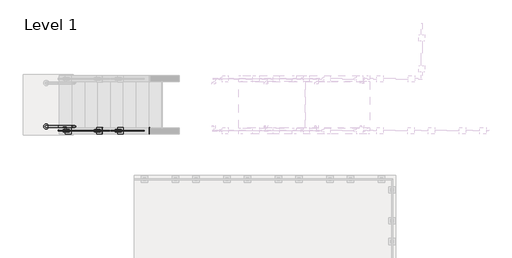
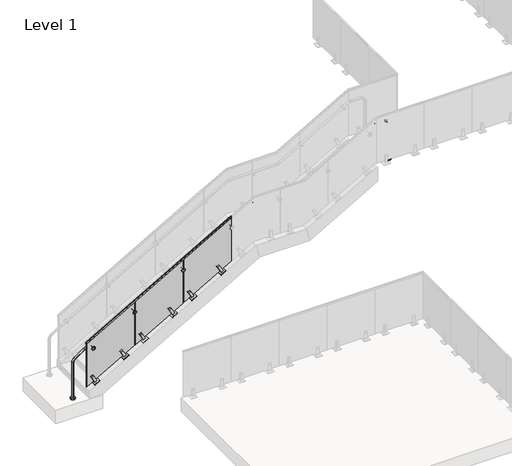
# One storey, part 12 of 17: 1 railing.
"""IFC4 building model written with IfcOpenShell, lengths in millimetres."""

from ifc_helpers import new_model, si_unit, point, frame, frame_2d, origin, origin_with_axes, place, context, project, spatial, polyline, circle_curve, ellipse_curve, trimmed, segment, composite_curve, outline, extrude, faceted_brep, element, save
from ifc_brep_helpers import plane_surface, cylinder_surface, revolved_surface, advanced_brep

model = new_model("IFC4")

# Units and contexts
model_context = context("Model", 3, world=origin())
ifc_project = project(units=[si_unit("LENGTHUNIT", "METRE", prefix="MILLI")], contexts=[model_context])

# Site, building, storey
site = spatial("IfcSite", under=ifc_project)
building = spatial("IfcBuilding", under=site)
storey = spatial("IfcBuildingStorey", under=building, Name="Level 1", Elevation=0.0)

# Railing
placement = place(None, origin())
element("IfcRailing", 1, ObjectType="VIVA-VISIO-Glass-Concrete Surface Mount-Stair_Lower", at=placement, inside=storey, context=model_context, shape_type="SolidModel", body=[
    extrude(outline(composite_curve([segment(trimmed(circle_curve(frame_2d((30763.9612561, -2340.8617549)), 50.8), [point((30763.9612561, -2391.6617549))], [point((30763.9612561, -2290.0617549))], False, "CARTESIAN"), True, "CONTINUOUS"), segment(trimmed(circle_curve(frame_2d((30763.9612561, -2340.8617549)), 50.8), [point((30763.9612561, -2290.0617549))], [point((30763.9612561, -2391.6617549))], False, "CARTESIAN"), True, "CONTINUOUS")], self_intersect=False)), frame((0.0, 0.0, 3048.0), z_axis=(0.0, 0.0, 1.0), x_axis=(1.0, 0.0, 0.0)), (0.0, 0.0, 1.0), 19.05),
    extrude(outline(composite_curve([segment(trimmed(circle_curve(frame_2d((24045.6612561, -2340.8617549)), 50.8), [point((24045.6612561, -2290.0617549))], [point((24045.6612561, -2391.6617549))], False, "CARTESIAN"), True, "CONTINUOUS"), segment(trimmed(circle_curve(frame_2d((24045.6612561, -2340.8617549)), 50.8), [point((24045.6612561, -2391.6617549))], [point((24045.6612561, -2290.0617549))], False, "CARTESIAN"), True, "CONTINUOUS")], self_intersect=False)), origin_with_axes(), (0.0, 0.0, 1.0), 19.05),
    advanced_brep(
    [(24045.6612561, -2359.9117549, 19.05), (24045.6612561, -2321.8117549, 19.05), (24045.6612561, -2359.9117549, 821.3205682), (24045.6612561, -2321.8117549, 821.3205682), (24082.4207549, -2321.8117549, 890.00632), (24082.4207549, -2359.9117549, 890.00632), (24288.2667076, -2359.9117549, 1027.2369552), (24288.2667076, -2321.8117549, 1027.2369552), (24293.1009394, -2321.8117549, 1030.2246748), (24293.1009394, -2359.9117549, 1030.2246748), (27388.8627028, -2359.9117549, 2799.2313967), (27388.8627028, -2321.8117549, 2799.2313967), (27822.6363335, -2359.9117549, 3047.1020428), (27822.6363335, -2321.8117549, 3047.1020428), (27863.5926029, -2321.8117549, 3057.9785714), (27863.5926029, -2359.9117549, 3057.9785714), (28876.4299093, -2359.9117549, 3057.9785714), (28876.4299093, -2321.8117549, 3057.9785714), (28936.2890722, -2321.8117549, 3073.8750363), (28936.2890722, -2359.9117549, 3073.8750363), (30413.4363335, -2359.9117549, 3917.9591857), (30413.4363335, -2321.8117549, 3917.9591857), (30454.3926029, -2321.8117549, 3928.8357143), (30454.3926029, -2359.9117549, 3928.8357143), (30681.4112561, -2359.9117549, 3928.8357143), (30681.4112561, -2321.8117549, 3928.8357143), (30763.9612561, -2321.8117549, 3846.2857143), (30763.9612561, -2359.9117549, 3846.2857143), (30763.9612561, -2359.9117549, 3067.05), (30763.9612561, -2321.8117549, 3067.05)],
    [
        (0, 1, circle_curve(frame((24045.6612561, -2340.8617549, 19.05), z_axis=(0.0, 0.0, -1.0), x_axis=(0.0, 1.0, 0.0)), 19.05)),
        (1, 0, circle_curve(frame((24045.6612561, -2340.8617549, 19.05), z_axis=(0.0, 0.0, -1.0), x_axis=(0.0, 1.0, 0.0)), 19.05)),
        (0, 2),
        (2, 3, circle_curve(frame((24045.6612561, -2340.8617549, 821.3205682), z_axis=(0.0, 0.0, -1.0), x_axis=(0.0, 1.0, 0.0)), 19.05)),
        (3, 1),
        (3, 2, circle_curve(frame((24045.6612561, -2340.8617549, 821.3205682), z_axis=(0.0, 0.0, -1.0), x_axis=(0.0, 1.0, 0.0)), 19.05)),
        (4, 3, circle_curve(frame((24128.2112561, -2321.8117549, 821.3205682), z_axis=(0.0, -1.0, 0.0), x_axis=(-0.9999999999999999, 0.0, 0.0)), 82.55)),
        (2, 5, circle_curve(frame((24128.2112561, -2359.9117549, 821.3205682), z_axis=(0.0, 1.0, 0.0), x_axis=(-0.9999999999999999, 0.0, 0.0)), 82.55)),
        (5, 4, circle_curve(frame((24082.4207549, -2340.8617549, 890.00632), z_axis=(-0.8320502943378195, 0.0, -0.554700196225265), x_axis=(0.0, 0.9999999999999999, 0.0)), 19.05)),
        (4, 5, circle_curve(frame((24082.4207549, -2340.8617549, 890.00632), z_axis=(-0.8320502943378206, 0.0, -0.5547001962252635), x_axis=(0.0, 0.9999999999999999, 0.0)), 19.05)),
        (5, 6),
        (6, 7, circle_curve(frame((24288.2667076, -2340.8617549, 1027.2369552), z_axis=(-0.8320502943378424, 0.0, -0.554700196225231), x_axis=(0.0, 1.0, 0.0)), 19.05)),
        (7, 4),
        (7, 6, circle_curve(frame((24288.2667076, -2340.8617549, 1027.2369552), z_axis=(-0.8320502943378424, 0.0, -0.554700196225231), x_axis=(0.0, 1.0, 0.0)), 19.05)),
        (8, 9, circle_curve(frame((24293.1009394, -2340.8617549, 1030.2246748), z_axis=(0.8682431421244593, 0.0, 0.49613893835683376), x_axis=(0.0, 1.0, 0.0)), 19.05)),
        (9, 10),
        (10, 11, circle_curve(frame((27388.8627028, -2340.8617549, 2799.2313967), z_axis=(-0.8682431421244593, 0.0, -0.49613893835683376), x_axis=(0.0, 1.0, 0.0)), 19.05)),
        (11, 8),
        (9, 8, circle_curve(frame((24293.1009394, -2340.8617549, 1030.2246748), z_axis=(0.8682431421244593, 0.0, 0.49613893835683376), x_axis=(0.0, 1.0, 0.0)), 19.05)),
        (11, 10, circle_curve(frame((27388.8627028, -2340.8617549, 2799.2313967), z_axis=(-0.8682431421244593, 0.0, -0.49613893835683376), x_axis=(0.0, 1.0, 0.0)), 19.05)),
        (8, 7, circle_curve(frame((24334.0572088, -2321.8117549, 958.5512034), z_axis=(0.0, -1.0, 0.0), x_axis=(-0.5547001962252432, 0.0, 0.8320502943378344)), 82.55)),
        (6, 9, circle_curve(frame((24334.0572088, -2359.9117549, 958.5512034), z_axis=(0.0, 1.0, 0.0), x_axis=(-0.5547001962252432, 0.0, 0.8320502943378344)), 82.55)),
        (10, 12),
        (12, 13, circle_curve(frame((27822.6363335, -2340.8617549, 3047.1020428), z_axis=(-0.8682431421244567, 0.0, -0.49613893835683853), x_axis=(0.0, 1.0, 0.0)), 19.05)),
        (13, 11),
        (13, 12, circle_curve(frame((27822.6363335, -2340.8617549, 3047.1020428), z_axis=(-0.8682431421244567, 0.0, -0.49613893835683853), x_axis=(0.0, 1.0, 0.0)), 19.05)),
        (14, 13, circle_curve(frame((27863.5926029, -2321.8117549, 2975.4285714), z_axis=(0.0, -1.0, 0.0), x_axis=(-0.49613893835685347, 0.0, 0.8682431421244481)), 82.55)),
        (12, 15, circle_curve(frame((27863.5926029, -2359.9117549, 2975.4285714), z_axis=(0.0, 1.0, 0.0), x_axis=(-0.49613893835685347, 0.0, 0.8682431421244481)), 82.55)),
        (15, 14, circle_curve(frame((27863.5926029, -2340.8617549, 3057.9785714), z_axis=(-1.0, 0.0, 0.0), x_axis=(0.0, 1.0, 0.0)), 19.05)),
        (14, 15, circle_curve(frame((27863.5926029, -2340.8617549, 3057.9785714), z_axis=(-1.0, 0.0, 0.0), x_axis=(0.0, 1.0, 0.0)), 19.05)),
        (15, 16),
        (16, 17, circle_curve(frame((28876.4299093, -2340.8617549, 3057.9785714), z_axis=(-1.0, 0.0, 0.0), x_axis=(0.0, 1.0, 0.0)), 19.05)),
        (17, 14),
        (17, 16, circle_curve(frame((28876.4299093, -2340.8617549, 3057.9785714), z_axis=(-1.0, 0.0, 0.0), x_axis=(0.0, 1.0, 0.0)), 19.05)),
        (18, 17, circle_curve(frame((28876.4299093, -2321.8117549, 3178.6285714), z_axis=(0.0, 1.0, 0.0), x_axis=(0.0, 0.0, -0.9999999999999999)), 120.65)),
        (16, 19, circle_curve(frame((28876.4299093, -2359.9117549, 3178.6285714), z_axis=(0.0, -1.0, 0.0), x_axis=(0.0, 0.0, -0.9999999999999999)), 120.65)),
        (19, 18, circle_curve(frame((28936.2890722, -2340.8617549, 3073.8750363), z_axis=(-0.8682431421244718, 0.0, -0.4961389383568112), x_axis=(0.0, 0.9999999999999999, 0.0)), 19.05)),
        (18, 19, circle_curve(frame((28936.2890722, -2340.8617549, 3073.8750363), z_axis=(-0.8682431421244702, 0.0, -0.4961389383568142), x_axis=(0.0, 0.9999999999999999, 0.0)), 19.05)),
        (19, 20),
        (20, 21, circle_curve(frame((30413.4363335, -2340.8617549, 3917.9591857), z_axis=(-0.8682431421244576, 0.0, -0.4961389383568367), x_axis=(0.0, 1.0, 0.0)), 19.05)),
        (21, 18),
        (21, 20, circle_curve(frame((30413.4363335, -2340.8617549, 3917.9591857), z_axis=(-0.8682431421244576, 0.0, -0.4961389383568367), x_axis=(0.0, 1.0, 0.0)), 19.05)),
        (22, 21, circle_curve(frame((30454.3926029, -2321.8117549, 3846.2857143), z_axis=(0.0, -1.0, 0.0), x_axis=(-0.49613893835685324, 0.0, 0.868243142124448)), 82.55)),
        (20, 23, circle_curve(frame((30454.3926029, -2359.9117549, 3846.2857143), z_axis=(0.0, 1.0, 0.0), x_axis=(-0.49613893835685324, 0.0, 0.868243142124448)), 82.55)),
        (23, 22, circle_curve(frame((30454.3926029, -2340.8617549, 3928.8357143), z_axis=(-0.9999999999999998, 0.0, 0.0), x_axis=(0.0, 0.9999999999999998, 0.0)), 19.05)),
        (22, 23, circle_curve(frame((30454.3926029, -2340.8617549, 3928.8357143), z_axis=(-0.9999999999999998, 0.0, 0.0), x_axis=(0.0, 0.9999999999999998, 0.0)), 19.05)),
        (23, 24),
        (24, 25, circle_curve(frame((30681.4112561, -2340.8617549, 3928.8357143), z_axis=(-1.0, 0.0, 0.0), x_axis=(0.0, 1.0, 0.0)), 19.05)),
        (25, 22),
        (25, 24, circle_curve(frame((30681.4112561, -2340.8617549, 3928.8357143), z_axis=(-1.0, 0.0, 0.0), x_axis=(0.0, 1.0, 0.0)), 19.05)),
        (26, 25, circle_curve(frame((30681.4112561, -2321.8117549, 3846.2857143), z_axis=(0.0, -1.0, 0.0), x_axis=(0.0, 0.0, 1.0)), 82.55)),
        (24, 27, circle_curve(frame((30681.4112561, -2359.9117549, 3846.2857143), z_axis=(0.0, 1.0, 0.0), x_axis=(0.0, 0.0, 1.0)), 82.55)),
        (27, 26, circle_curve(frame((30763.9612561, -2340.8617549, 3846.2857143), z_axis=(0.0, 0.0, 1.0), x_axis=(0.0, 1.0, 0.0)), 19.05)),
        (26, 27, circle_curve(frame((30763.9612561, -2340.8617549, 3846.2857143), z_axis=(0.0, 0.0, 1.0), x_axis=(0.0, 1.0, 0.0)), 19.05)),
        (28, 29, circle_curve(frame((30763.9612561, -2340.8617549, 3067.05), z_axis=(0.0, 0.0, -1.0), x_axis=(0.0, 1.0, 0.0)), 19.05)),
        (29, 28, circle_curve(frame((30763.9612561, -2340.8617549, 3067.05), z_axis=(0.0, 0.0, -1.0), x_axis=(0.0, 1.0, 0.0)), 19.05)),
        (27, 28),
        (29, 26),
    ],
    [
        plane_surface(frame((24026.6112561, -2378.9617549, 19.05), z_axis=(0.0, 0.0, -1.0), x_axis=(1.0, 0.0, 0.0))),
        cylinder_surface(frame((24045.6612561, -2340.8617549, 19.05), z_axis=(0.0, 0.0, -1.0), x_axis=(0.0, 1.0, 0.0)), 19.05),
        revolved_surface(trimmed(ellipse_curve(frame((24045.6612561, -2340.8617549, 821.3205682), z_axis=(0.0, 0.0, -0.9999999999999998), x_axis=(0.0, 0.9999999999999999, 0.0)), 19.05, 19.05), [point((24045.6612561, -2359.9117549, 821.3205682))], [point((24045.6612561, -2321.8117549, 821.3205682))], True, "CARTESIAN"), (24128.2112561, -2340.8617549, 821.3205682), (0.0, 0.9999999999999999, 0.0)),
        revolved_surface(trimmed(ellipse_curve(frame((24045.6612561, -2340.8617549, 821.3205682), z_axis=(0.0, 0.0, -0.9999999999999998), x_axis=(0.0, 0.9999999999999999, 0.0)), 19.05, 19.05), [point((24045.6612561, -2321.8117549, 821.3205682))], [point((24045.6612561, -2359.9117549, 821.3205682))], True, "CARTESIAN"), (24128.2112561, -2340.8617549, 821.3205682), (0.0, 0.9999999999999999, 0.0)),
        cylinder_surface(frame((24082.4207549, -2340.8617549, 890.00632), z_axis=(-0.8320502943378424, 0.0, -0.554700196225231), x_axis=(0.0, 1.0, 0.0)), 19.05),
        cylinder_surface(frame((24293.1009394, -2340.8617549, 1030.2246748), z_axis=(-0.8682431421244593, 0.0, -0.49613893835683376), x_axis=(0.0, 1.0, 0.0)), 19.05),
        revolved_surface(trimmed(ellipse_curve(frame((24288.2667076, -2340.8617549, 1027.2369552), z_axis=(-0.8320502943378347, 0.0, -0.5547001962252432), x_axis=(0.0, 1.0000000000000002, 0.0)), 19.05, 19.05), [point((24288.2667076, -2359.9117549, 1027.2369552))], [point((24288.2667076, -2321.8117549, 1027.2369552))], True, "CARTESIAN"), (24334.0572088, -2340.8617549, 958.5512034), (0.0, 1.0000000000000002, 0.0)),
        revolved_surface(trimmed(ellipse_curve(frame((24288.2667076, -2340.8617549, 1027.2369552), z_axis=(-0.8320502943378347, 0.0, -0.5547001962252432), x_axis=(0.0, 1.0000000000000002, 0.0)), 19.05, 19.05), [point((24288.2667076, -2321.8117549, 1027.2369552))], [point((24288.2667076, -2359.9117549, 1027.2369552))], True, "CARTESIAN"), (24334.0572088, -2340.8617549, 958.5512034), (0.0, 1.0000000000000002, 0.0)),
        cylinder_surface(frame((27388.8627028, -2340.8617549, 2799.2313967), z_axis=(-0.8682431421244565, 0.0, -0.4961389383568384), x_axis=(0.0, 1.0, 0.0)), 19.05),
        revolved_surface(trimmed(ellipse_curve(frame((27822.6363335, -2340.8617549, 3047.1020428), z_axis=(-0.8682431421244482, 0.0, -0.4961389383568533), x_axis=(0.0, 1.0, 0.0)), 19.05, 19.05), [point((27822.6363335, -2359.9117549, 3047.1020428))], [point((27822.6363335, -2321.8117549, 3047.1020428))], True, "CARTESIAN"), (27863.5926029, -2340.8617549, 2975.4285714), (0.0, 1.0, 0.0)),
        revolved_surface(trimmed(ellipse_curve(frame((27822.6363335, -2340.8617549, 3047.1020428), z_axis=(-0.8682431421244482, 0.0, -0.4961389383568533), x_axis=(0.0, 1.0, 0.0)), 19.05, 19.05), [point((27822.6363335, -2321.8117549, 3047.1020428))], [point((27822.6363335, -2359.9117549, 3047.1020428))], True, "CARTESIAN"), (27863.5926029, -2340.8617549, 2975.4285714), (0.0, 1.0, 0.0)),
        cylinder_surface(frame((27863.5926029, -2340.8617549, 3057.9785714), z_axis=(-1.0, 0.0, 0.0), x_axis=(0.0, 1.0, 0.0)), 19.05),
        revolved_surface(trimmed(ellipse_curve(frame((28876.4299093, -2340.8617549, 3057.9785714), z_axis=(-0.9999999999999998, 0.0, 0.0), x_axis=(0.0, 0.9999999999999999, 0.0)), 19.05, 19.05), [point((28876.4299093, -2359.9117549, 3057.9785714))], [point((28876.4299093, -2321.8117549, 3057.9785714))], True, "CARTESIAN"), (28876.4299093, -2340.8617549, 3178.6285714), (0.0, -0.9999999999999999, 0.0)),
        revolved_surface(trimmed(ellipse_curve(frame((28876.4299093, -2340.8617549, 3057.9785714), z_axis=(-0.9999999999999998, 0.0, 0.0), x_axis=(0.0, 0.9999999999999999, 0.0)), 19.05, 19.05), [point((28876.4299093, -2321.8117549, 3057.9785714))], [point((28876.4299093, -2359.9117549, 3057.9785714))], True, "CARTESIAN"), (28876.4299093, -2340.8617549, 3178.6285714), (0.0, -0.9999999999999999, 0.0)),
        cylinder_surface(frame((28936.2890722, -2340.8617549, 3073.8750363), z_axis=(-0.8682431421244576, 0.0, -0.4961389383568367), x_axis=(0.0, 1.0, 0.0)), 19.05),
        revolved_surface(trimmed(ellipse_curve(frame((30413.4363335, -2340.8617549, 3917.9591857), z_axis=(-0.8682431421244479, 0.0, -0.49613893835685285), x_axis=(0.0, 0.9999999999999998, 0.0)), 19.05, 19.05), [point((30413.4363335, -2359.9117549, 3917.9591857))], [point((30413.4363335, -2321.8117549, 3917.9591857))], True, "CARTESIAN"), (30454.3926029, -2340.8617549, 3846.2857143), (0.0, 0.9999999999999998, 0.0)),
        revolved_surface(trimmed(ellipse_curve(frame((30413.4363335, -2340.8617549, 3917.9591857), z_axis=(-0.8682431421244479, 0.0, -0.49613893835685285), x_axis=(0.0, 0.9999999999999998, 0.0)), 19.05, 19.05), [point((30413.4363335, -2321.8117549, 3917.9591857))], [point((30413.4363335, -2359.9117549, 3917.9591857))], True, "CARTESIAN"), (30454.3926029, -2340.8617549, 3846.2857143), (0.0, 0.9999999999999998, 0.0)),
        cylinder_surface(frame((30454.3926029, -2340.8617549, 3928.8357143), z_axis=(-1.0, 0.0, 0.0), x_axis=(0.0, 1.0, 0.0)), 19.05),
        revolved_surface(trimmed(ellipse_curve(frame((30681.4112561, -2340.8617549, 3928.8357143), z_axis=(-1.0, 0.0, 0.0), x_axis=(0.0, 1.0, 0.0)), 19.05, 19.05), [point((30681.4112561, -2359.9117549, 3928.8357143))], [point((30681.4112561, -2321.8117549, 3928.8357143))], True, "CARTESIAN"), (30681.4112561, -2340.8617549, 3846.2857143), (0.0, 1.0, 0.0)),
        revolved_surface(trimmed(ellipse_curve(frame((30681.4112561, -2340.8617549, 3928.8357143), z_axis=(-1.0, 0.0, 0.0), x_axis=(0.0, 1.0, 0.0)), 19.05, 19.05), [point((30681.4112561, -2321.8117549, 3928.8357143))], [point((30681.4112561, -2359.9117549, 3928.8357143))], True, "CARTESIAN"), (30681.4112561, -2340.8617549, 3846.2857143), (0.0, 1.0, 0.0)),
        plane_surface(frame((30783.0112561, -2378.9617549, 3067.05), z_axis=(0.0, 0.0, -1.0), x_axis=(-1.0, 0.0, 0.0))),
        cylinder_surface(frame((30763.9612561, -2340.8617549, 3846.2857143), z_axis=(0.0, 0.0, 1.0), x_axis=(0.0, 1.0, 0.0)), 19.05),
    ],
    [
        (0, [[1, 2]]),
        (1, [[-1, 3, 4, 5]]),
        (1, [[-2, -5, 6, -3]]),
        (2, [[7, -4, 8, 9]]),
        (3, [[-8, -6, -7, 10]]),
        (4, [[-9, 11, 12, 13]]),
        (4, [[-10, -13, 14, -11]]),
        (5, [[15, 16, 17, 18]]),
        (5, [[19, -18, 20, -16]]),
        (6, [[21, -12, 22, -15]]),
        (7, [[-22, -14, -21, -19]]),
        (8, [[-17, 23, 24, 25]]),
        (8, [[-20, -25, 26, -23]]),
        (9, [[27, -24, 28, 29]]),
        (10, [[-28, -26, -27, 30]]),
        (11, [[-29, 31, 32, 33]]),
        (11, [[-30, -33, 34, -31]]),
        (12, [[35, -32, 36, 37]]),
        (13, [[-36, -34, -35, 38]]),
        (14, [[-37, 39, 40, 41]]),
        (14, [[-38, -41, 42, -39]]),
        (15, [[43, -40, 44, 45]]),
        (16, [[-44, -42, -43, 46]]),
        (17, [[-45, 47, 48, 49]]),
        (17, [[-46, -49, 50, -47]]),
        (18, [[51, -48, 52, 53]]),
        (19, [[-52, -50, -51, 54]]),
        (20, [[55, 56]]),
        (21, [[-53, 57, -56, 58]]),
        (21, [[-54, -58, -55, -57]]),
    ],
),
    faceted_brep([(24280.6112561, -2434.2694611, 1222.8285714), (24280.6112561, -2412.5405549, 1222.8285714), (24280.6112561, -2412.5405549, 1193.5740933), (24280.6112561, -2417.055008, 1193.5740933), (24280.6112561, -2417.055008, 1218.4403997), (24280.6112561, -2429.755008, 1218.4403997), (24280.6112561, -2429.755008, 1193.5740933), (24280.6112561, -2434.2694611, 1193.5740933), (27379.4112561, -2434.2694611, 2993.5714286), (27379.4112561, -2434.2694611, 2964.3169505), (27379.4112561, -2429.755008, 2964.3169505), (27379.4112561, -2429.755008, 2989.1832569), (27379.4112561, -2417.055008, 2989.1832569), (27379.4112561, -2417.055008, 2964.3169505), (27379.4112561, -2412.5405549, 2964.3169505), (27379.4112561, -2412.5405549, 2993.5714286)], [[[0, 1, 2, 3, 4, 5, 6, 7]], [[8, 9, 10, 11, 12, 13, 14, 15]], [[1, 0, 8, 15]], [[2, 1, 15, 14]], [[3, 2, 14, 13]], [[4, 3, 13, 12]], [[5, 4, 12, 11]], [[6, 5, 11, 10]], [[7, 6, 10, 9]], [[0, 7, 9, 8]]]),
    extrude(outline(polyline([(0.0, 127.0), (127.0, 127.0), (127.0, 0.0), (0.0, 0.0), (0.0, 127.0)])), frame((27117.6911499, -2359.9117549, 1786.2814785), z_axis=(-0.4961389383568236, 0.0, 0.8682431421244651), x_axis=(0.0, -1.0, 0.0)), (0.0, 0.0, 1.0), 12.7),
    extrude(outline(polyline([(0.0, 12.7), (50.7999999, 12.7), (50.7999999, 0.0), (0.0, 0.0), (0.0, 12.7)])), frame((27150.7712136, -2429.7617549, 1805.1843721), z_axis=(-0.49613893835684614, 0.0, 0.8682431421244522), x_axis=(0.8682431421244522, 0.0, 0.49613893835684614)), (0.0, 0.0, 1.0), 50.8),
    extrude(outline(polyline([(0.0, 0.0), (0.0, 19.05), (166.6875, 19.05), (166.6875, 11.1125), (139.7, 0.0), (0.0, 0.0)])), frame((27138.9569051, -2398.0117549, 1825.8594119), z_axis=(0.8682431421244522, 0.0, 0.49613893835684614), x_axis=(-0.49613893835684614, 0.0, 0.8682431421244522)), (0.0, 0.0, 1.0), 50.8),
    extrude(outline(polyline([(0.0, 50.8), (139.7, 50.8), (166.6875, 39.6875), (166.6875, 31.75), (0.0, 31.75), (0.0, 50.8)])), frame((27138.9569051, -2398.0117549, 1825.8594119), z_axis=(0.8682431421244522, 0.0, 0.49613893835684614), x_axis=(-0.49613893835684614, 0.0, 0.8682431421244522)), (0.0, 0.0, 1.0), 50.8),
    extrude(outline(polyline([(2986.9494066, 27371.327636), (2406.377978, 26355.327636), (1407.5763011, 26355.327636), (1988.1477297, 27371.327636), (2986.9494066, 27371.327636)])), frame((0.0, -2429.7617549, 0.0), z_axis=(0.0, 1.0, 0.0), x_axis=(0.0, 0.0, 1.0)), (0.0, 0.0, 1.0), 12.7),
    extrude(outline(polyline([(0.0, 127.0), (127.0, 127.0), (127.0, 0.0), (0.0, 0.0), (0.0, 127.0)])), frame((26497.9311499, -2359.9117549, 1432.1329071), z_axis=(-0.4961389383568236, 0.0, 0.8682431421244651), x_axis=(0.0, -1.0, 0.0)), (0.0, 0.0, 1.0), 12.7),
    extrude(outline(polyline([(0.0, 12.7), (50.8, 12.7), (50.8, 0.0), (0.0, 0.0), (0.0, 12.7)])), frame((26531.0112136, -2429.7617549, 1451.0358006), z_axis=(-0.49613893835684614, 0.0, 0.8682431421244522), x_axis=(0.8682431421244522, 0.0, 0.49613893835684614)), (0.0, 0.0, 1.0), 50.8),
    extrude(outline(polyline([(0.0, 0.0), (0.0, 19.05), (166.6875, 19.05), (166.6875, 11.1125), (139.7, 0.0), (0.0, 0.0)])), frame((26519.1969051, -2398.0117549, 1471.7108405), z_axis=(0.8682431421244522, 0.0, 0.49613893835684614), x_axis=(-0.49613893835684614, 0.0, 0.8682431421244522)), (0.0, 0.0, 1.0), 50.8),
    extrude(outline(polyline([(0.0, 50.8), (139.7, 50.8), (166.6875, 39.6875), (166.6875, 31.75), (0.0, 31.75), (0.0, 50.8)])), frame((26519.1969051, -2398.0117549, 1471.7108405), z_axis=(0.8682431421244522, 0.0, 0.49613893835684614), x_axis=(-0.49613893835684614, 0.0, 0.8682431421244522)), (0.0, 0.0, 1.0), 50.8),
    extrude(outline(composite_curve([segment(trimmed(circle_curve(frame_2d((0.0, -7.0)), 7.0), [point((0.0, -14.0))], [point((0.0, 0.0))], False, "CARTESIAN"), True, "CONTINUOUS"), segment(trimmed(circle_curve(frame_2d((0.0, -7.0)), 7.0), [point((0.0, 0.0))], [point((0.0, -14.0))], False, "CARTESIAN"), True, "CONTINUOUS")], self_intersect=False)), frame((26359.2741159, -2348.1918939, 2123.885294), z_axis=(-0.5018548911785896, 0.0, 0.8649518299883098), x_axis=(-0.8649518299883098, 0.0, -0.5018548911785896)), (0.0, 0.0, 1.0), 52.8378352),
    extrude(outline(composite_curve([segment(trimmed(circle_curve(frame_2d((18.6575251, 0.3952033)), 19.05), [point((5.2466063, 13.9247915))], [point((5.2466063, -13.134385))], True, "CARTESIAN"), True, "CONTINUOUS"), segment(polyline([(5.2466063, -13.134385), (4.2292193, -14.1607746)]), True, "CONTINUOUS"), segment(trimmed(circle_curve(frame_2d((3.1638974, -13.1047967)), 1.5), [point((4.2292193, -14.1607746))], [point((2.0329756, -14.0901982))], False, "CARTESIAN"), True, "CONTINUOUS"), segment(trimmed(circle_curve(frame_2d((18.6575251, 0.3952033)), 22.05), [point((2.0329756, -14.0901982))], [point((2.0329756, 14.8806047))], False, "CARTESIAN"), True, "CONTINUOUS"), segment(trimmed(circle_curve(frame_2d((3.1638974, 13.8952033)), 1.5), [point((2.0329756, 14.8806047))], [point((4.2292193, 14.9511811))], False, "CARTESIAN"), True, "CONTINUOUS"), segment(polyline([(4.2292193, 14.9511811), (5.2466063, 13.9247915)]), True, "CONTINUOUS")], self_intersect=False)), frame((26294.8063338, -2339.4646616, 2151.6264769), z_axis=(0.8664916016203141, 0.0, 0.49919165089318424), x_axis=(-0.49919165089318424, 0.0, 0.8664916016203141)), (0.0, 0.0, 1.0), 74.5229187),
    extrude(outline(composite_curve([segment(trimmed(circle_curve(frame_2d((2146.0218095, 26346.4779227)), 11.0132813), [point((2146.0218095, 26357.491204))], [point((2146.0218095, 26335.4646415))], False, "CARTESIAN"), True, "CONTINUOUS"), segment(trimmed(circle_curve(frame_2d((2146.0218095, 26346.4779227)), 11.0132813), [point((2146.0218095, 26335.4646415))], [point((2146.0218095, 26357.491204))], False, "CARTESIAN"), True, "CONTINUOUS")], self_intersect=False)), frame((0.0, -2407.4375361, 0.0), z_axis=(0.0, 1.0, 0.0), x_axis=(0.0, 0.0, 1.0)), (0.0, 0.0, 1.0), 79.2757812),
    advanced_brep(
    [(26346.4779227, -2439.3859736, 2146.0218095), (26346.4779227, -2439.3859736, 2182.1374345), (26346.4779227, -2439.3859736, 2109.9061845), (26346.4779227, -2407.4375361, 2109.9061845), (26346.4779227, -2407.4375361, 2182.1374345), (26346.4779227, -2407.4375361, 2146.0218095), (26346.4779227, -2409.4219111, 2107.9218095), (26346.4779227, -2409.4219111, 2184.1218095), (26346.4779227, -2417.0617549, 2107.9218095), (26346.4779227, -2417.0617549, 2184.1218095), (26346.4779227, -2417.0617549, 2133.3218095), (26346.4779227, -2417.0617549, 2158.7218095), (26346.4779227, -2429.7617549, 2133.3218095), (26346.4779227, -2429.7617549, 2158.7218095), (26346.4779227, -2429.7617549, 2107.9218095), (26346.4779227, -2429.7617549, 2184.1218095), (26346.4779227, -2437.4015986, 2107.9218095), (26346.4779227, -2437.4015986, 2184.1218095)],
    [
        (0, 1),
        (1, 2, circle_curve(frame((26346.4779227, -2439.3859736, 2146.0218095), z_axis=(0.0, -1.0, 0.0), x_axis=(0.0, 0.0, 1.0)), 36.115625)),
        (2, 0),
        (2, 1, circle_curve(frame((26346.4779227, -2439.3859736, 2146.0218095), z_axis=(0.0, -1.0, 0.0), x_axis=(0.0, 0.0, 1.0)), 36.115625)),
        (3, 4, circle_curve(frame((26346.4779227, -2407.4375361, 2146.0218095), z_axis=(0.0, 1.0, 0.0), x_axis=(0.0, 0.0, 1.0)), 36.115625)),
        (4, 5),
        (5, 3),
        (4, 3, circle_curve(frame((26346.4779227, -2407.4375361, 2146.0218095), z_axis=(0.0, 1.0, 0.0), x_axis=(0.0, 0.0, 1.0)), 36.115625)),
        (6, 7, circle_curve(frame((26346.4779227, -2409.4219111, 2146.0218095), z_axis=(0.0, 1.0, 0.0), x_axis=(0.0, 0.0, 1.0)), 38.1)),
        (7, 4),
        (3, 6),
        (7, 6, circle_curve(frame((26346.4779227, -2409.4219111, 2146.0218095), z_axis=(0.0, 1.0, 0.0), x_axis=(0.0, 0.0, 1.0)), 38.1)),
        (8, 9, circle_curve(frame((26346.4779227, -2417.0617549, 2146.0218095), z_axis=(0.0, 1.0, 0.0), x_axis=(0.0, 0.0, 1.0)), 38.1)),
        (9, 7),
        (6, 8),
        (9, 8, circle_curve(frame((26346.4779227, -2417.0617549, 2146.0218095), z_axis=(0.0, 1.0, 0.0), x_axis=(0.0, 0.0, 1.0)), 38.1)),
        (10, 11, circle_curve(frame((26346.4779227, -2417.0617549, 2146.0218095), z_axis=(0.0, 1.0, 0.0), x_axis=(0.0, 0.0, 1.0)), 12.7)),
        (11, 9),
        (8, 10),
        (11, 10, circle_curve(frame((26346.4779227, -2417.0617549, 2146.0218095), z_axis=(0.0, 1.0, 0.0), x_axis=(0.0, 0.0, 1.0)), 12.7)),
        (12, 13, circle_curve(frame((26346.4779227, -2429.7617549, 2146.0218095), z_axis=(0.0, 1.0, 0.0), x_axis=(0.0, 0.0, 1.0)), 12.7)),
        (13, 11),
        (10, 12),
        (13, 12, circle_curve(frame((26346.4779227, -2429.7617549, 2146.0218095), z_axis=(0.0, 1.0, 0.0), x_axis=(0.0, 0.0, 1.0)), 12.7)),
        (14, 15, circle_curve(frame((26346.4779227, -2429.7617549, 2146.0218095), z_axis=(0.0, 1.0, 0.0), x_axis=(0.0, 0.0, 1.0)), 38.1)),
        (15, 13),
        (12, 14),
        (15, 14, circle_curve(frame((26346.4779227, -2429.7617549, 2146.0218095), z_axis=(0.0, 1.0, 0.0), x_axis=(0.0, 0.0, 1.0)), 38.1)),
        (16, 17, circle_curve(frame((26346.4779227, -2437.4015986, 2146.0218095), z_axis=(0.0, 1.0, 0.0), x_axis=(0.0, 0.0, 1.0)), 38.1)),
        (17, 15),
        (14, 16),
        (17, 16, circle_curve(frame((26346.4779227, -2437.4015986, 2146.0218095), z_axis=(0.0, 1.0, 0.0), x_axis=(0.0, 0.0, 1.0)), 38.1)),
        (1, 17),
        (16, 2),
    ],
    [
        plane_surface(frame((26346.4779227, -2439.3859736, 2146.0218095), z_axis=(0.0, -1.0, 0.0), x_axis=(0.0, 0.0, 1.0))),
        plane_surface(frame((26346.4779227, -2407.4375361, 2146.0218095), z_axis=(0.0, 1.0, 0.0), x_axis=(0.0, 0.0, 1.0))),
        revolved_surface(polyline([(26346.4779227, -2407.4375361, 2182.1374345), (26346.4779227, -2409.4219111, 2184.1218095)]), (26346.4779227, -2475.5015986, 2146.0218095), (0.0, -1.0, 0.0)),
        cylinder_surface(frame((26346.4779227, -2475.5015986, 2146.0218095), z_axis=(0.0, -1.0, 0.0), x_axis=(0.0, 0.0, 1.0)), 38.1),
        plane_surface(frame((26346.4779227, -2417.0617549, 2146.0218095), z_axis=(0.0, -1.0, 0.0), x_axis=(0.0, 0.0, 1.0))),
        cylinder_surface(frame((26346.4779227, -2475.5015986, 2146.0218095), z_axis=(0.0, -1.0, 0.0), x_axis=(0.0, 0.0, 1.0)), 12.7),
        plane_surface(frame((26346.4779227, -2429.7617549, 2146.0218095), z_axis=(0.0, 1.0, 0.0), x_axis=(0.0, 0.0, 1.0))),
        revolved_surface(polyline([(26346.4779227, -2437.4015986, 2184.1218095), (26346.4779227, -2439.3859736, 2182.1374345)]), (26346.4779227, -2475.5015986, 2146.0218095), (0.0, -1.0, 0.0)),
    ],
    [
        (0, [[1, 2, 3]]),
        (0, [[-3, 4, -1]]),
        (1, [[5, 6, 7]]),
        (1, [[8, -7, -6]]),
        (2, [[9, 10, -5, 11]]),
        (2, [[12, -11, -8, -10]]),
        (3, [[13, 14, -9, 15]]),
        (3, [[16, -15, -12, -14]]),
        (4, [[17, 18, -13, 19]]),
        (4, [[20, -19, -16, -18]]),
        (5, [[21, 22, -17, 23]]),
        (5, [[24, -23, -20, -22]]),
        (6, [[25, 26, -21, 27]]),
        (6, [[28, -27, -24, -26]]),
        (3, [[29, 30, -25, 31]]),
        (3, [[32, -31, -28, -30]]),
        (7, [[-2, 33, -29, 34]]),
        (7, [[-4, -34, -32, -33]]),
    ],
),
    extrude(outline(polyline([(0.0, 127.0000001), (127.0, 127.0000001), (127.0, 0.0), (0.0, 0.0), (0.0, 127.0000001)])), frame((26084.7578165, -2359.9117549, 1196.0338595), z_axis=(-0.4961389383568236, 0.0, 0.8682431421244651), x_axis=(0.0, -1.0, 0.0)), (0.0, 0.0, 1.0), 12.7),
    extrude(outline(polyline([(0.0, 12.7), (50.8, 12.7), (50.8, 0.0), (0.0, 0.0), (0.0, 12.7)])), frame((26117.8378803, -2429.7617549, 1214.936753), z_axis=(-0.49613893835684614, 0.0, 0.8682431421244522), x_axis=(0.8682431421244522, 0.0, 0.49613893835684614)), (0.0, 0.0, 1.0), 50.8),
    extrude(outline(polyline([(0.0, 0.0), (0.0, 19.05), (166.6875, 19.05), (166.6875, 11.1125), (139.7, 0.0), (0.0, 0.0)])), frame((26106.0235718, -2398.0117549, 1235.6117929), z_axis=(0.8682431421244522, 0.0, 0.49613893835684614), x_axis=(-0.49613893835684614, 0.0, 0.8682431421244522)), (0.0, 0.0, 1.0), 50.8),
    extrude(outline(polyline([(0.0, 50.8), (139.7, 50.8), (166.6875, 39.6875), (166.6875, 31.75), (0.0, 31.75), (0.0, 50.8)])), frame((26106.0235718, -2398.0117549, 1235.6117929), z_axis=(0.8682431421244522, 0.0, 0.49613893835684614), x_axis=(-0.49613893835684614, 0.0, 0.8682431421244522)), (0.0, 0.0, 1.0), 50.8),
    extrude(outline(polyline([(2396.7017875, 26338.3943027), (1816.1303589, 25322.3943027), (817.3286821, 25322.3943027), (1397.9001106, 26338.3943027), (2396.7017875, 26338.3943027)])), frame((0.0, -2429.7617549, 0.0), z_axis=(0.0, 1.0, 0.0), x_axis=(0.0, 0.0, 1.0)), (0.0, 0.0, 1.0), 12.7),
    extrude(outline(polyline([(0.0, 127.0), (127.0, 127.0), (127.0, 0.0), (0.0, 0.0), (0.0, 127.0)])), frame((25464.9978165, -2359.9117549, 841.8852881), z_axis=(-0.4961389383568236, 0.0, 0.8682431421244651), x_axis=(0.0, -1.0, 0.0)), (0.0, 0.0, 1.0), 12.7),
    extrude(outline(polyline([(0.0, 12.7), (50.8, 12.7), (50.8, 0.0), (0.0, 0.0), (0.0, 12.7)])), frame((25498.0778803, -2429.7617549, 860.7881816), z_axis=(-0.49613893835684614, 0.0, 0.8682431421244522), x_axis=(0.8682431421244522, 0.0, 0.49613893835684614)), (0.0, 0.0, 1.0), 50.8),
    extrude(outline(polyline([(0.0, 0.0), (0.0, 19.05), (166.6875, 19.05), (166.6875, 11.1125), (139.7, 0.0), (0.0, 0.0)])), frame((25486.2635718, -2398.0117549, 881.4632214), z_axis=(0.8682431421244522, 0.0, 0.49613893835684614), x_axis=(-0.49613893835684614, 0.0, 0.8682431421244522)), (0.0, 0.0, 1.0), 50.8),
    extrude(outline(polyline([(0.0, 50.8), (139.7, 50.8), (166.6875, 39.6875), (166.6875, 31.75), (0.0, 31.75), (0.0, 50.8)])), frame((25486.2635718, -2398.0117549, 881.4632214), z_axis=(0.8682431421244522, 0.0, 0.49613893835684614), x_axis=(-0.49613893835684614, 0.0, 0.8682431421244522)), (0.0, 0.0, 1.0), 50.8),
    extrude(outline(composite_curve([segment(trimmed(circle_curve(frame_2d((0.0, -7.0)), 7.0), [point((0.0, -14.0))], [point((0.0, 0.0))], False, "CARTESIAN"), True, "CONTINUOUS"), segment(trimmed(circle_curve(frame_2d((0.0, -7.0)), 7.0), [point((0.0, 0.0))], [point((0.0, -14.0))], False, "CARTESIAN"), True, "CONTINUOUS")], self_intersect=False)), frame((25326.3407825, -2348.1918939, 1533.637675), z_axis=(-0.5018548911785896, 0.0, 0.8649518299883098), x_axis=(-0.8649518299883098, 0.0, -0.5018548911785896)), (0.0, 0.0, 1.0), 52.8378352),
    extrude(outline(composite_curve([segment(trimmed(circle_curve(frame_2d((18.6575252, 0.3952033)), 19.05), [point((5.2466064, 13.9247915))], [point((5.2466064, -13.134385))], True, "CARTESIAN"), True, "CONTINUOUS"), segment(polyline([(5.2466064, -13.134385), (4.2292194, -14.1607746)]), True, "CONTINUOUS"), segment(trimmed(circle_curve(frame_2d((3.1638975, -13.1047967)), 1.5), [point((4.2292194, -14.1607746))], [point((2.0329757, -14.0901982))], False, "CARTESIAN"), True, "CONTINUOUS"), segment(trimmed(circle_curve(frame_2d((18.6575252, 0.3952033)), 22.05), [point((2.0329757, -14.0901982))], [point((2.0329757, 14.8806047))], False, "CARTESIAN"), True, "CONTINUOUS"), segment(trimmed(circle_curve(frame_2d((3.1638975, 13.8952033)), 1.5), [point((2.0329757, 14.8806047))], [point((4.2292194, 14.9511811))], False, "CARTESIAN"), True, "CONTINUOUS"), segment(polyline([(4.2292194, 14.9511811), (5.2466064, 13.9247915)]), True, "CONTINUOUS")], self_intersect=False)), frame((25261.8730005, -2339.4646616, 1561.3788578), z_axis=(0.8664916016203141, 0.0, 0.49919165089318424), x_axis=(-0.49919165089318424, 0.0, 0.8664916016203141)), (0.0, 0.0, 1.0), 74.5229187),
    extrude(outline(composite_curve([segment(trimmed(circle_curve(frame_2d((1555.7741905, 25313.5445894)), 11.0132813), [point((1555.7741905, 25324.5578707))], [point((1555.7741905, 25302.5313082))], False, "CARTESIAN"), True, "CONTINUOUS"), segment(trimmed(circle_curve(frame_2d((1555.7741905, 25313.5445894)), 11.0132813), [point((1555.7741905, 25302.5313082))], [point((1555.7741905, 25324.5578707))], False, "CARTESIAN"), True, "CONTINUOUS")], self_intersect=False)), frame((0.0, -2407.4375361, 0.0), z_axis=(0.0, 1.0, 0.0), x_axis=(0.0, 0.0, 1.0)), (0.0, 0.0, 1.0), 79.2757812),
    advanced_brep(
    [(25313.5445894, -2439.3859736, 1555.7741905), (25313.5445894, -2439.3859736, 1591.8898155), (25313.5445894, -2439.3859736, 1519.6585655), (25313.5445894, -2407.4375361, 1519.6585655), (25313.5445894, -2407.4375361, 1591.8898155), (25313.5445894, -2407.4375361, 1555.7741905), (25313.5445894, -2409.4219111, 1517.6741905), (25313.5445894, -2409.4219111, 1593.8741905), (25313.5445894, -2417.0617549, 1517.6741905), (25313.5445894, -2417.0617549, 1593.8741905), (25313.5445894, -2417.0617549, 1543.0741905), (25313.5445894, -2417.0617549, 1568.4741905), (25313.5445894, -2429.7617549, 1543.0741905), (25313.5445894, -2429.7617549, 1568.4741905), (25313.5445894, -2429.7617549, 1517.6741905), (25313.5445894, -2429.7617549, 1593.8741905), (25313.5445894, -2437.4015986, 1517.6741905), (25313.5445894, -2437.4015986, 1593.8741905)],
    [
        (0, 1),
        (1, 2, circle_curve(frame((25313.5445894, -2439.3859736, 1555.7741905), z_axis=(0.0, -1.0, 0.0), x_axis=(0.0, 0.0, 1.0)), 36.115625)),
        (2, 0),
        (2, 1, circle_curve(frame((25313.5445894, -2439.3859736, 1555.7741905), z_axis=(0.0, -1.0, 0.0), x_axis=(0.0, 0.0, 1.0)), 36.115625)),
        (3, 4, circle_curve(frame((25313.5445894, -2407.4375361, 1555.7741905), z_axis=(0.0, 1.0, 0.0), x_axis=(0.0, 0.0, 1.0)), 36.115625)),
        (4, 5),
        (5, 3),
        (4, 3, circle_curve(frame((25313.5445894, -2407.4375361, 1555.7741905), z_axis=(0.0, 1.0, 0.0), x_axis=(0.0, 0.0, 1.0)), 36.115625)),
        (6, 7, circle_curve(frame((25313.5445894, -2409.4219111, 1555.7741905), z_axis=(0.0, 1.0, 0.0), x_axis=(0.0, 0.0, 1.0)), 38.1)),
        (7, 4),
        (3, 6),
        (7, 6, circle_curve(frame((25313.5445894, -2409.4219111, 1555.7741905), z_axis=(0.0, 1.0, 0.0), x_axis=(0.0, 0.0, 1.0)), 38.1)),
        (8, 9, circle_curve(frame((25313.5445894, -2417.0617549, 1555.7741905), z_axis=(0.0, 1.0, 0.0), x_axis=(0.0, 0.0, 1.0)), 38.1)),
        (9, 7),
        (6, 8),
        (9, 8, circle_curve(frame((25313.5445894, -2417.0617549, 1555.7741905), z_axis=(0.0, 1.0, 0.0), x_axis=(0.0, 0.0, 1.0)), 38.1)),
        (10, 11, circle_curve(frame((25313.5445894, -2417.0617549, 1555.7741905), z_axis=(0.0, 1.0, 0.0), x_axis=(0.0, 0.0, 1.0)), 12.7)),
        (11, 9),
        (8, 10),
        (11, 10, circle_curve(frame((25313.5445894, -2417.0617549, 1555.7741905), z_axis=(0.0, 1.0, 0.0), x_axis=(0.0, 0.0, 1.0)), 12.7)),
        (12, 13, circle_curve(frame((25313.5445894, -2429.7617549, 1555.7741905), z_axis=(0.0, 1.0, 0.0), x_axis=(0.0, 0.0, 1.0)), 12.7)),
        (13, 11),
        (10, 12),
        (13, 12, circle_curve(frame((25313.5445894, -2429.7617549, 1555.7741905), z_axis=(0.0, 1.0, 0.0), x_axis=(0.0, 0.0, 1.0)), 12.7)),
        (14, 15, circle_curve(frame((25313.5445894, -2429.7617549, 1555.7741905), z_axis=(0.0, 1.0, 0.0), x_axis=(0.0, 0.0, 1.0)), 38.1)),
        (15, 13),
        (12, 14),
        (15, 14, circle_curve(frame((25313.5445894, -2429.7617549, 1555.7741905), z_axis=(0.0, 1.0, 0.0), x_axis=(0.0, 0.0, 1.0)), 38.1)),
        (16, 17, circle_curve(frame((25313.5445894, -2437.4015986, 1555.7741905), z_axis=(0.0, 1.0, 0.0), x_axis=(0.0, 0.0, 1.0)), 38.1)),
        (17, 15),
        (14, 16),
        (17, 16, circle_curve(frame((25313.5445894, -2437.4015986, 1555.7741905), z_axis=(0.0, 1.0, 0.0), x_axis=(0.0, 0.0, 1.0)), 38.1)),
        (1, 17),
        (16, 2),
    ],
    [
        plane_surface(frame((25313.5445894, -2439.3859736, 1555.7741905), z_axis=(0.0, -1.0, 0.0), x_axis=(0.0, 0.0, 1.0))),
        plane_surface(frame((25313.5445894, -2407.4375361, 1555.7741905), z_axis=(0.0, 1.0, 0.0), x_axis=(0.0, 0.0, 1.0))),
        revolved_surface(polyline([(25313.5445894, -2407.4375361, 1591.8898155), (25313.5445894, -2409.4219111, 1593.8741905)]), (25313.5445894, -2475.5015986, 1555.7741905), (0.0, -1.0, 0.0)),
        cylinder_surface(frame((25313.5445894, -2475.5015986, 1555.7741905), z_axis=(0.0, -1.0, 0.0), x_axis=(0.0, 0.0, 1.0)), 38.1),
        plane_surface(frame((25313.5445894, -2417.0617549, 1555.7741905), z_axis=(0.0, -1.0, 0.0), x_axis=(0.0, 0.0, 1.0))),
        cylinder_surface(frame((25313.5445894, -2475.5015986, 1555.7741905), z_axis=(0.0, -1.0, 0.0), x_axis=(0.0, 0.0, 1.0)), 12.7),
        plane_surface(frame((25313.5445894, -2429.7617549, 1555.7741905), z_axis=(0.0, 1.0, 0.0), x_axis=(0.0, 0.0, 1.0))),
        revolved_surface(polyline([(25313.5445894, -2437.4015986, 1593.8741905), (25313.5445894, -2439.3859736, 1591.8898155)]), (25313.5445894, -2475.5015986, 1555.7741905), (0.0, -1.0, 0.0)),
    ],
    [
        (0, [[1, 2, 3]]),
        (0, [[-3, 4, -1]]),
        (1, [[5, 6, 7]]),
        (1, [[8, -7, -6]]),
        (2, [[9, 10, -5, 11]]),
        (2, [[12, -11, -8, -10]]),
        (3, [[13, 14, -9, 15]]),
        (3, [[16, -15, -12, -14]]),
        (4, [[17, 18, -13, 19]]),
        (4, [[20, -19, -16, -18]]),
        (5, [[21, 22, -17, 23]]),
        (5, [[24, -23, -20, -22]]),
        (6, [[25, 26, -21, 27]]),
        (6, [[28, -27, -24, -26]]),
        (3, [[29, 30, -25, 31]]),
        (3, [[32, -31, -28, -30]]),
        (7, [[-2, 33, -29, 34]]),
        (7, [[-4, -34, -32, -33]]),
    ],
),
    extrude(outline(polyline([(0.0, 127.0000001), (127.0, 127.0000001), (127.0, 0.0), (0.0, 0.0), (0.0, 127.0000001)])), frame((25051.8244832, -2359.9117549, 605.7862404), z_axis=(-0.4961389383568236, 0.0, 0.8682431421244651), x_axis=(0.0, -1.0, 0.0)), (0.0, 0.0, 1.0), 12.7),
    extrude(outline(polyline([(0.0, 12.7), (50.8, 12.7), (50.8, 0.0), (0.0, 0.0), (0.0, 12.7)])), frame((25084.9045469, -2429.7617549, 624.689134), z_axis=(-0.49613893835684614, 0.0, 0.8682431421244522), x_axis=(0.8682431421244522, 0.0, 0.49613893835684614)), (0.0, 0.0, 1.0), 50.8),
    extrude(outline(polyline([(0.0, 0.0), (0.0, 19.05), (166.6875, 19.05), (166.6875, 11.1125), (139.7, 0.0), (0.0, 0.0)])), frame((25073.0902385, -2398.0117549, 645.3641738), z_axis=(0.8682431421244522, 0.0, 0.49613893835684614), x_axis=(-0.49613893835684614, 0.0, 0.8682431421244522)), (0.0, 0.0, 1.0), 50.8),
    extrude(outline(polyline([(0.0, 50.8), (139.7, 50.8), (166.6875, 39.6875), (166.6875, 31.75), (0.0, 31.75), (0.0, 50.8)])), frame((25073.0902385, -2398.0117549, 645.3641738), z_axis=(0.8682431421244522, 0.0, 0.49613893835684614), x_axis=(-0.49613893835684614, 0.0, 0.8682431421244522)), (0.0, 0.0, 1.0), 50.8),
    extrude(outline(polyline([(1806.4541685, 25305.4609693), (1225.8827399, 24289.4609693), (227.081063, 24289.4609693), (807.6524916, 25305.4609693), (1806.4541685, 25305.4609693)])), frame((0.0, -2429.7617549, 0.0), z_axis=(0.0, 1.0, 0.0), x_axis=(0.0, 0.0, 1.0)), (0.0, 0.0, 1.0), 12.7),
    extrude(outline(polyline([(0.0, 127.0000001), (127.0, 127.0000001), (127.0, 0.0), (0.0, 0.0), (0.0, 127.0000001)])), frame((24432.0644832, -2359.9117549, 251.637669), z_axis=(-0.4961389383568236, 0.0, 0.8682431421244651), x_axis=(0.0, -1.0, 0.0)), (0.0, 0.0, 1.0), 12.7),
    extrude(outline(polyline([(0.0, 12.7), (50.7999999, 12.7), (50.7999999, 0.0), (0.0, 0.0), (0.0, 12.7)])), frame((24465.1445469, -2429.7617549, 270.5405626), z_axis=(-0.49613893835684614, 0.0, 0.8682431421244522), x_axis=(0.8682431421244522, 0.0, 0.49613893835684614)), (0.0, 0.0, 1.0), 50.8),
    extrude(outline(polyline([(0.0, 0.0), (0.0, 19.05), (166.6875, 19.05), (166.6875, 11.1125), (139.7, 0.0), (0.0, 0.0)])), frame((24453.3302385, -2398.0117549, 291.2156024), z_axis=(0.8682431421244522, 0.0, 0.49613893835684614), x_axis=(-0.49613893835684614, 0.0, 0.8682431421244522)), (0.0, 0.0, 1.0), 50.8),
    extrude(outline(polyline([(0.0, 50.8), (139.7, 50.8), (166.6875, 39.6875), (166.6875, 31.75), (0.0, 31.75), (0.0, 50.8)])), frame((24453.3302385, -2398.0117549, 291.2156024), z_axis=(0.8682431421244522, 0.0, 0.49613893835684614), x_axis=(-0.49613893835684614, 0.0, 0.8682431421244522)), (0.0, 0.0, 1.0), 50.8),
    extrude(outline(composite_curve([segment(trimmed(circle_curve(frame_2d((0.0, -7.0)), 7.0), [point((0.0, -14.0))], [point((0.0, 0.0))], False, "CARTESIAN"), True, "CONTINUOUS"), segment(trimmed(circle_curve(frame_2d((0.0, -7.0)), 7.0), [point((0.0, 0.0))], [point((0.0, -14.0))], False, "CARTESIAN"), True, "CONTINUOUS")], self_intersect=False)), frame((24445.8074492, -2348.1918939, 1030.4757702), z_axis=(-0.5018548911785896, 0.0, 0.8649518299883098), x_axis=(-0.8649518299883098, 0.0, -0.5018548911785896)), (0.0, 0.0, 1.0), 52.8378352),
    extrude(outline(composite_curve([segment(trimmed(circle_curve(frame_2d((18.6575251, 0.3952033)), 19.05), [point((5.2466063, 13.9247915))], [point((5.2466063, -13.134385))], True, "CARTESIAN"), True, "CONTINUOUS"), segment(polyline([(5.2466063, -13.134385), (4.2292193, -14.1607746)]), True, "CONTINUOUS"), segment(trimmed(circle_curve(frame_2d((3.1638974, -13.1047967)), 1.5), [point((4.2292193, -14.1607746))], [point((2.0329756, -14.0901982))], False, "CARTESIAN"), True, "CONTINUOUS"), segment(trimmed(circle_curve(frame_2d((18.6575251, 0.3952033)), 22.05), [point((2.0329756, -14.0901982))], [point((2.0329756, 14.8806047))], False, "CARTESIAN"), True, "CONTINUOUS"), segment(trimmed(circle_curve(frame_2d((3.1638974, 13.8952033)), 1.5), [point((2.0329756, 14.8806047))], [point((4.2292193, 14.9511811))], False, "CARTESIAN"), True, "CONTINUOUS"), segment(polyline([(4.2292193, 14.9511811), (5.2466063, 13.9247915)]), True, "CONTINUOUS")], self_intersect=False)), frame((24381.3396672, -2339.4646616, 1058.2169531), z_axis=(0.8664916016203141, 0.0, 0.49919165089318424), x_axis=(-0.49919165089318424, 0.0, 0.8664916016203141)), (0.0, 0.0, 1.0), 74.5229187),
    extrude(outline(composite_curve([segment(trimmed(circle_curve(frame_2d((1052.6122857, 24433.0112561)), 11.0132813), [point((1052.6122857, 24444.0245373))], [point((1052.6122857, 24421.9979748))], False, "CARTESIAN"), True, "CONTINUOUS"), segment(trimmed(circle_curve(frame_2d((1052.6122857, 24433.0112561)), 11.0132813), [point((1052.6122857, 24421.9979748))], [point((1052.6122857, 24444.0245373))], False, "CARTESIAN"), True, "CONTINUOUS")], self_intersect=False)), frame((0.0, -2407.4375361, 0.0), z_axis=(0.0, 1.0, 0.0), x_axis=(0.0, 0.0, 1.0)), (0.0, 0.0, 1.0), 79.2757812),
    advanced_brep(
    [(24433.0112561, -2439.3859736, 1052.6122857), (24433.0112561, -2439.3859736, 1088.7279107), (24433.0112561, -2439.3859736, 1016.4966607), (24433.0112561, -2407.4375361, 1016.4966607), (24433.0112561, -2407.4375361, 1088.7279107), (24433.0112561, -2407.4375361, 1052.6122857), (24433.0112561, -2409.4219111, 1014.5122857), (24433.0112561, -2409.4219111, 1090.7122857), (24433.0112561, -2417.0617549, 1014.5122857), (24433.0112561, -2417.0617549, 1090.7122857), (24433.0112561, -2417.0617549, 1039.9122857), (24433.0112561, -2417.0617549, 1065.3122857), (24433.0112561, -2429.7617549, 1039.9122857), (24433.0112561, -2429.7617549, 1065.3122857), (24433.0112561, -2429.7617549, 1014.5122857), (24433.0112561, -2429.7617549, 1090.7122857), (24433.0112561, -2437.4015986, 1014.5122857), (24433.0112561, -2437.4015986, 1090.7122857)],
    [
        (0, 1),
        (1, 2, circle_curve(frame((24433.0112561, -2439.3859736, 1052.6122857), z_axis=(0.0, -1.0, 0.0), x_axis=(0.0, 0.0, 1.0)), 36.115625)),
        (2, 0),
        (2, 1, circle_curve(frame((24433.0112561, -2439.3859736, 1052.6122857), z_axis=(0.0, -1.0, 0.0), x_axis=(0.0, 0.0, 1.0)), 36.115625)),
        (3, 4, circle_curve(frame((24433.0112561, -2407.4375361, 1052.6122857), z_axis=(0.0, 1.0, 0.0), x_axis=(0.0, 0.0, 1.0)), 36.115625)),
        (4, 5),
        (5, 3),
        (4, 3, circle_curve(frame((24433.0112561, -2407.4375361, 1052.6122857), z_axis=(0.0, 1.0, 0.0), x_axis=(0.0, 0.0, 1.0)), 36.115625)),
        (6, 7, circle_curve(frame((24433.0112561, -2409.4219111, 1052.6122857), z_axis=(0.0, 1.0, 0.0), x_axis=(0.0, 0.0, 1.0)), 38.1)),
        (7, 4),
        (3, 6),
        (7, 6, circle_curve(frame((24433.0112561, -2409.4219111, 1052.6122857), z_axis=(0.0, 1.0, 0.0), x_axis=(0.0, 0.0, 1.0)), 38.1)),
        (8, 9, circle_curve(frame((24433.0112561, -2417.0617549, 1052.6122857), z_axis=(0.0, 1.0, 0.0), x_axis=(0.0, 0.0, 1.0)), 38.1)),
        (9, 7),
        (6, 8),
        (9, 8, circle_curve(frame((24433.0112561, -2417.0617549, 1052.6122857), z_axis=(0.0, 1.0, 0.0), x_axis=(0.0, 0.0, 1.0)), 38.1)),
        (10, 11, circle_curve(frame((24433.0112561, -2417.0617549, 1052.6122857), z_axis=(0.0, 1.0, 0.0), x_axis=(0.0, 0.0, 1.0)), 12.7)),
        (11, 9),
        (8, 10),
        (11, 10, circle_curve(frame((24433.0112561, -2417.0617549, 1052.6122857), z_axis=(0.0, 1.0, 0.0), x_axis=(0.0, 0.0, 1.0)), 12.7)),
        (12, 13, circle_curve(frame((24433.0112561, -2429.7617549, 1052.6122857), z_axis=(0.0, 1.0, 0.0), x_axis=(0.0, 0.0, 1.0)), 12.7)),
        (13, 11),
        (10, 12),
        (13, 12, circle_curve(frame((24433.0112561, -2429.7617549, 1052.6122857), z_axis=(0.0, 1.0, 0.0), x_axis=(0.0, 0.0, 1.0)), 12.7)),
        (14, 15, circle_curve(frame((24433.0112561, -2429.7617549, 1052.6122857), z_axis=(0.0, 1.0, 0.0), x_axis=(0.0, 0.0, 1.0)), 38.1)),
        (15, 13),
        (12, 14),
        (15, 14, circle_curve(frame((24433.0112561, -2429.7617549, 1052.6122857), z_axis=(0.0, 1.0, 0.0), x_axis=(0.0, 0.0, 1.0)), 38.1)),
        (16, 17, circle_curve(frame((24433.0112561, -2437.4015986, 1052.6122857), z_axis=(0.0, 1.0, 0.0), x_axis=(0.0, 0.0, 1.0)), 38.1)),
        (17, 15),
        (14, 16),
        (17, 16, circle_curve(frame((24433.0112561, -2437.4015986, 1052.6122857), z_axis=(0.0, 1.0, 0.0), x_axis=(0.0, 0.0, 1.0)), 38.1)),
        (1, 17),
        (16, 2),
    ],
    [
        plane_surface(frame((24433.0112561, -2439.3859736, 1052.6122857), z_axis=(0.0, -1.0, 0.0), x_axis=(0.0, 0.0, 1.0))),
        plane_surface(frame((24433.0112561, -2407.4375361, 1052.6122857), z_axis=(0.0, 1.0, 0.0), x_axis=(0.0, 0.0, 1.0))),
        revolved_surface(polyline([(24433.0112561, -2407.4375361, 1088.7279107), (24433.0112561, -2409.4219111, 1090.7122857)]), (24433.0112561, -2475.5015986, 1052.6122857), (0.0, -1.0, 0.0)),
        cylinder_surface(frame((24433.0112561, -2475.5015986, 1052.6122857), z_axis=(0.0, -1.0, 0.0), x_axis=(0.0, 0.0, 1.0)), 38.1),
        plane_surface(frame((24433.0112561, -2417.0617549, 1052.6122857), z_axis=(0.0, -1.0, 0.0), x_axis=(0.0, 0.0, 1.0))),
        cylinder_surface(frame((24433.0112561, -2475.5015986, 1052.6122857), z_axis=(0.0, -1.0, 0.0), x_axis=(0.0, 0.0, 1.0)), 12.7),
        plane_surface(frame((24433.0112561, -2429.7617549, 1052.6122857), z_axis=(0.0, 1.0, 0.0), x_axis=(0.0, 0.0, 1.0))),
        revolved_surface(polyline([(24433.0112561, -2437.4015986, 1090.7122857), (24433.0112561, -2439.3859736, 1088.7279107)]), (24433.0112561, -2475.5015986, 1052.6122857), (0.0, -1.0, 0.0)),
    ],
    [
        (0, [[1, 2, 3]]),
        (0, [[-3, 4, -1]]),
        (1, [[5, 6, 7]]),
        (1, [[8, -7, -6]]),
        (2, [[9, 10, -5, 11]]),
        (2, [[12, -11, -8, -10]]),
        (3, [[13, 14, -9, 15]]),
        (3, [[16, -15, -12, -14]]),
        (4, [[17, 18, -13, 19]]),
        (4, [[20, -19, -16, -18]]),
        (5, [[21, 22, -17, 23]]),
        (5, [[24, -23, -20, -22]]),
        (6, [[25, 26, -21, 27]]),
        (6, [[28, -27, -24, -26]]),
        (3, [[29, 30, -25, 31]]),
        (3, [[32, -31, -28, -30]]),
        (7, [[-2, 33, -29, 34]]),
        (7, [[-4, -34, -32, -33]]),
    ],
),
])

save(model, "model.ifc")
